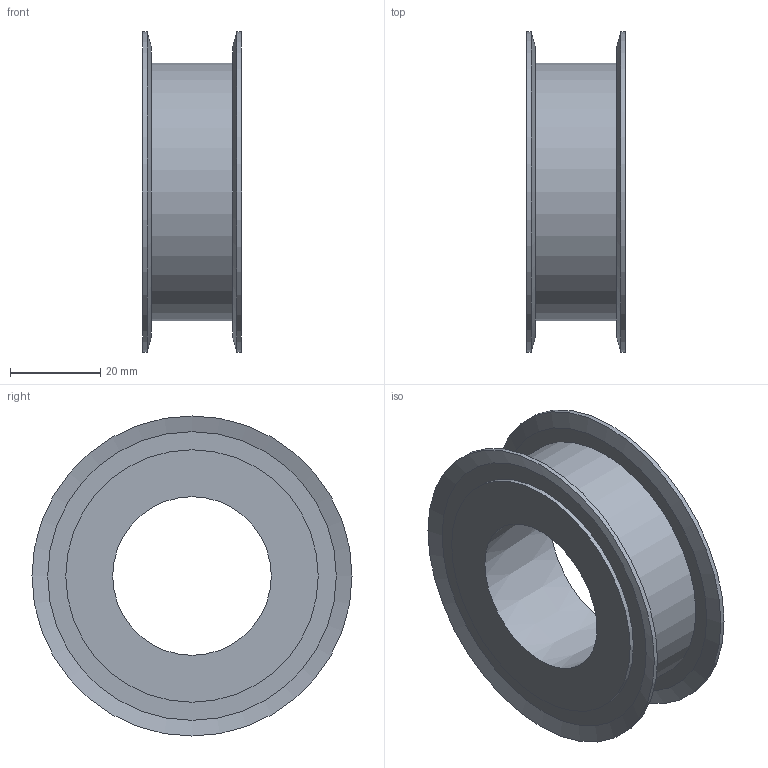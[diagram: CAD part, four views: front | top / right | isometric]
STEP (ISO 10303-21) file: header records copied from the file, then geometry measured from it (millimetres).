
FILE_DESCRIPTION(/* description */ (''),/* implementation_level */ '2;1');
FILE_NAME(/* name */ 'C:\Users\stagistaCAD\Desktop\41215040.stp',/* time_stamp */ '2018-06-18T11:26:36+02:00',/* author */ ('stagistacad'),/* organization */ (''),/* preprocessor_version */ 'ST-DEVELOPER v15.6',/* originating_system */ 'Autodesk Inventor 2015',/* authorisation */ '');
FILE_SCHEMA (('AUTOMOTIVE_DESIGN { 1 0 10303 214 3 1 1 }'));
Length unit declared in the file: millimetre
Products named in the file (1): 41215040
Bounding box: 22 x 71 x 71 mm (x, y, z)
Volume: 35754.1 mm3; surface area: 15262.2 mm2
Topology: 1 solids, 1 shells, 16 faces, 26 edges, 16 vertices
Faces by surface type: plane 6, cylinder 5, cone 5
Full cylindrical faces by diameter (mm): 56 x2, 57.165 x1, 71 x2
Entity records: 352 total; most frequent: DIRECTION 66, CARTESIAN_POINT 49, AXIS2_PLACEMENT_3D 33, EDGE_LOOP 32, ORIENTED_EDGE 32, FACE_BOUND 16, FACE_OUTER_BOUND 16, CIRCLE 16
